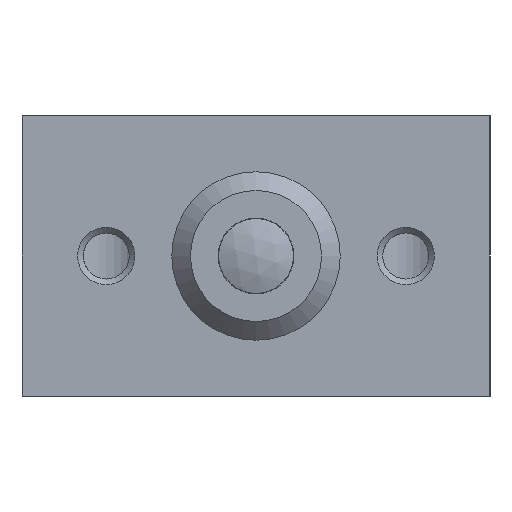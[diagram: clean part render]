
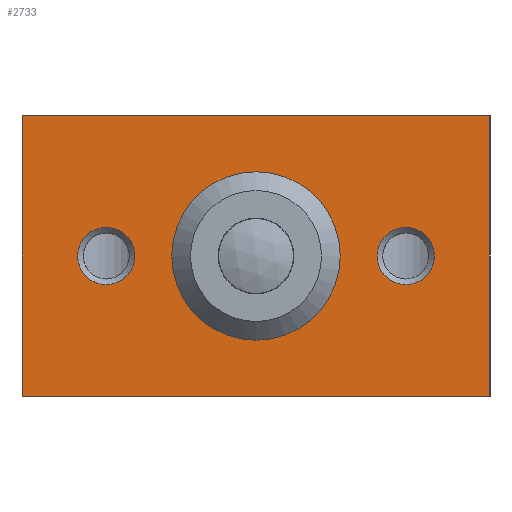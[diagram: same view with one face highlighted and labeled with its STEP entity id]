
A CAD part, left-side view. The second image highlights one B-rep face of the part: STEP entity #2733.
In plain terms, the highlighted planar face has unit normal (-1, 0, 0).
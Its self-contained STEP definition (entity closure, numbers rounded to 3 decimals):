
#59=LINE('',#5025,#291);
#97=LINE('',#5338,#329);
#111=LINE('',#5505,#343);
#112=LINE('',#5506,#344);
#291=VECTOR('',#4287,1000.);
#329=VECTOR('',#4329,1000.);
#343=VECTOR('',#4369,1000.);
#344=VECTOR('',#4370,1000.);
#587=PLANE('',#4010);
#799=ORIENTED_EDGE('',*,*,#1507,.T.);
#800=ORIENTED_EDGE('',*,*,#1508,.T.);
#801=ORIENTED_EDGE('',*,*,#1509,.T.);
#802=ORIENTED_EDGE('',*,*,#1480,.T.);
#803=ORIENTED_EDGE('',*,*,#1510,.T.);
#804=ORIENTED_EDGE('',*,*,#1429,.F.);
#805=ORIENTED_EDGE('',*,*,#1511,.F.);
#1429=EDGE_CURVE('',#1789,#1790,#59,.T.);
#1480=EDGE_CURVE('',#1840,#1841,#97,.T.);
#1507=EDGE_CURVE('',#1867,#1867,#2047,.F.);
#1508=EDGE_CURVE('',#1868,#1868,#2048,.F.);
#1509=EDGE_CURVE('',#1869,#1869,#2049,.F.);
#1510=EDGE_CURVE('',#1841,#1790,#111,.T.);
#1511=EDGE_CURVE('',#1840,#1789,#112,.T.);
#1789=VERTEX_POINT('',#5026);
#1790=VERTEX_POINT('',#5027);
#1840=VERTEX_POINT('',#5339);
#1841=VERTEX_POINT('',#5340);
#1867=VERTEX_POINT('',#5500);
#1868=VERTEX_POINT('',#5502);
#1869=VERTEX_POINT('',#5504);
#2047=CIRCLE('',#4011,4.088);
#2048=CIRCLE('',#4012,1.53);
#2049=CIRCLE('',#4013,1.53);
#2150=EDGE_LOOP('',(#799));
#2151=EDGE_LOOP('',(#800));
#2152=EDGE_LOOP('',(#801));
#2153=EDGE_LOOP('',(#802,#803,#804,#805));
#2436=FACE_BOUND('',#2150,.T.);
#2437=FACE_BOUND('',#2151,.T.);
#2438=FACE_BOUND('',#2152,.T.);
#2439=FACE_BOUND('',#2153,.T.);
#2733=ADVANCED_FACE('',(#2436,#2437,#2438,#2439),#587,.T.);
#4010=AXIS2_PLACEMENT_3D('',#5498,#4361,#4362);
#4011=AXIS2_PLACEMENT_3D('',#5499,#4363,#4364);
#4012=AXIS2_PLACEMENT_3D('',#5501,#4365,#4366);
#4013=AXIS2_PLACEMENT_3D('',#5503,#4367,#4368);
#4287=DIRECTION('',(0.,1.,0.));
#4329=DIRECTION('',(0.,1.,0.));
#4361=DIRECTION('',(-1.,0.,0.));
#4362=DIRECTION('',(0.,1.,0.));
#4363=DIRECTION('',(-1.,0.,0.));
#4364=DIRECTION('',(0.,0.,1.));
#4365=DIRECTION('',(-1.,0.,0.));
#4366=DIRECTION('',(0.,0.,1.));
#4367=DIRECTION('',(-1.,0.,0.));
#4368=DIRECTION('',(0.,0.,1.));
#4369=DIRECTION('',(0.,0.,-1.));
#4370=DIRECTION('',(0.,0.,-1.));
#5025=CARTESIAN_POINT('',(-42.,-12.5,-7.5));
#5026=CARTESIAN_POINT('',(-42.,-12.5,-7.5));
#5027=CARTESIAN_POINT('',(-42.,12.5,-7.5));
#5338=CARTESIAN_POINT('',(-42.,-12.5,7.5));
#5339=CARTESIAN_POINT('',(-42.,-12.5,7.5));
#5340=CARTESIAN_POINT('',(-42.,12.5,7.5));
#5498=CARTESIAN_POINT('',(-42.,-12.5,7.5));
#5499=CARTESIAN_POINT('',(-42.,0.,0.));
#5500=CARTESIAN_POINT('',(-42.,0.,4.088));
#5501=CARTESIAN_POINT('',(-42.,8.,0.));
#5502=CARTESIAN_POINT('',(-42.,8.,1.53));
#5503=CARTESIAN_POINT('',(-42.,-8.,0.));
#5504=CARTESIAN_POINT('',(-42.,-8.,1.53));
#5505=CARTESIAN_POINT('',(-42.,12.5,7.5));
#5506=CARTESIAN_POINT('',(-42.,-12.5,7.5));
